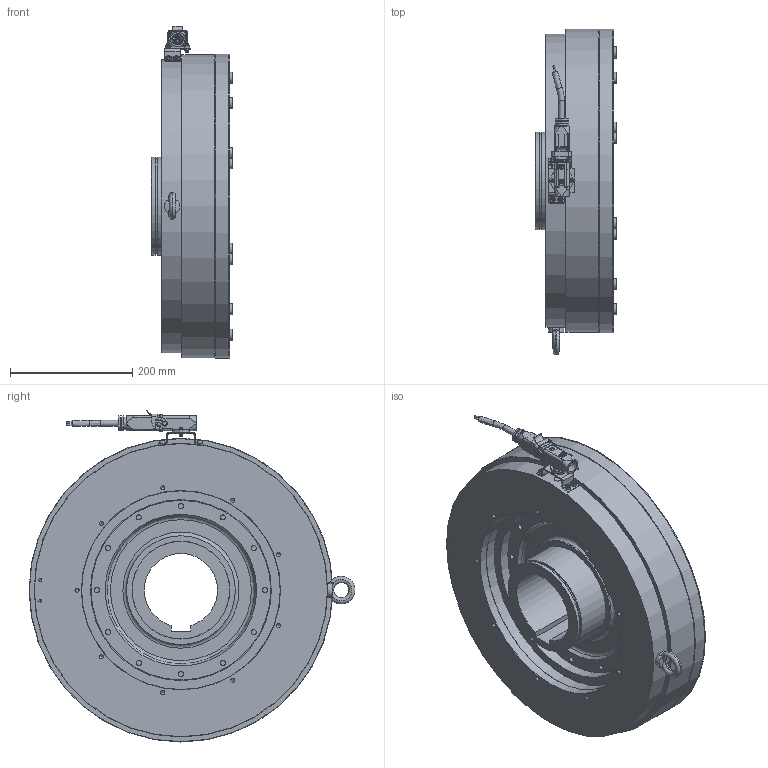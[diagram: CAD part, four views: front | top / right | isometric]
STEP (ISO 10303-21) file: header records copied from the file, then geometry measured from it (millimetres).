
FILE_DESCRIPTION(/* description */ (''),/* implementation_level */ '2;1');
FILE_NAME(/* name */ 'X:\INVENTOR\DISEGNI\08_Freni_Friz_Elettmag_Monodisco\08_26 EMSL_DF\EMSL_DF STEP\08_26_500_21 EMSL500_DF-BM_S@STEP.stp',/* time_stamp */ '2018-04-24T08:31:42+02:00',/* author */ ('stefano'),/* organization */ (''),/* preprocessor_version */ 'ST-DEVELOPER v17',/* originating_system */ 'Autodesk Inventor 2018',/* authorisation */ '');
FILE_SCHEMA (('AUTOMOTIVE_DESIGN { 1 0 10303 214 3 1 1 }'));
Length unit declared in the file: millimetre
Products named in the file (1): 08_26_500_21 EMSL500_DF-BM - Spina_Substitute_1
Bounding box: 133 x 533.3 x 543.28 mm (x, y, z)
Volume: 14015036.5 mm3; surface area: 1542900.5 mm2
Topology: 4 solids, 4 shells, 1720 faces, 4745 edges, 3202 vertices
Faces by surface type: plane 994, cylinder 547, cone 116, torus 35, bspline 25, sphere 3
Full cylindrical faces by diameter (mm): 0.35 x1, 0.491 x1, 0.753 x1, 0.95 x1, 0.986 x1, 1.05 x1, 2.5 x2, 3 x4, 3.2 x1, 3.25 x2, 3.59 x3, 4 x3, 4.675 x2, 4.8 x2, 4.917 x2, 5 x20, 5.25 x4, 5.5 x2, 6 x6, 6.2 x1, 6.647 x9, 7 x1, 7.9 x2, 8.2 x2, 8.376 x12, 8.5 x4, 9.5 x2, 12.1 x8, 13.5 x2, 16 x14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
Entity records: 58804 total; most frequent: CARTESIAN_POINT 11751, DIRECTION 9535, ORIENTED_EDGE 9426, EDGE_CURVE 4713, AXIS2_PLACEMENT_3D 3386, VERTEX_POINT 3202, LINE 2763, VECTOR 2763
